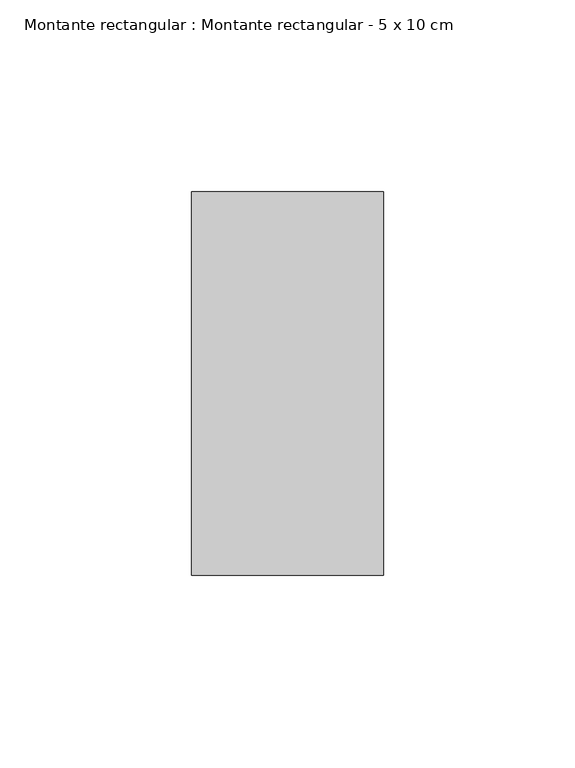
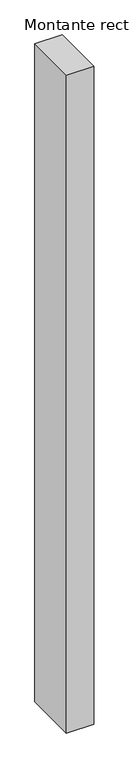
"""IFC4 building model written with IfcOpenShell, lengths in millimetres: member geometry, Montante rectangular : Montante rectangular - 5 x 10 cm."""

import ifcopenshell
import ifcopenshell.guid

model = None  # the IFC model being written
_history = None  # IfcOwnerHistory: only IFC2X3 demands one
_inside = {}  # id of a spatial element -> (the spatial element, [elements in it])
_under = {}  # id of a project, library or spatial element -> (it, [spatial elements below it])
_declared = {}  # id of a project -> (the project, [libraries it declares])
_typed = {}  # id of a type object -> (the type object, [elements of that type])
_made_of = {}  # id of a material, layer set ... -> (it, [elements and type objects made of it])


def new_model(schema):
    """Start an empty IFC model of exactly this schema.

    Asked for "IFC4X3", IfcOpenShell would pick the latest addendum, in which some entities
    have other attributes; the version numbers below select the first issue.
    IFC2X3 requires an IfcOwnerHistory on every rooted entity: one is made here for all.
    """
    global model, _history
    if schema == "IFC4X3":
        model = ifcopenshell.file(schema_version=(4, 3, 0, 0))
    else:
        model = ifcopenshell.file(schema=schema)
    _inside.clear()
    _under.clear()
    _declared.clear()
    _typed.clear()
    _made_of.clear()
    _history = None
    if model.schema == "IFC2X3":
        org = make("IfcOrganization", Name="unknown")
        user = make(
            "IfcPersonAndOrganization",
            ThePerson=make("IfcPerson", FamilyName="unknown"),
            TheOrganization=org,
        )
        app = make(
            "IfcApplication",
            ApplicationDeveloper=org,
            Version="unknown",
            ApplicationFullName="unknown",
            ApplicationIdentifier="unknown",
        )
        _history = make(
            "IfcOwnerHistory",
            OwningUser=user,
            OwningApplication=app,
            ChangeAction="ADDED",
            CreationDate=0,
        )
    return model


def make(cls, **values):
    """One entity of the class cls with the attributes given. An attribute that is None is left unset."""
    return model.create_entity(
        cls, **{name: value for name, value in values.items() if value is not None}
    )


def rooted(cls, **values):
    """An entity with a GlobalId (a new one), such as an element, a storey or a relation."""
    return make(cls, GlobalId=ifcopenshell.guid.new(), OwnerHistory=_history, **values)


def si_unit(unit_type, name, prefix=None):
    """IfcSIUnit, for example si_unit("LENGTHUNIT", "METRE", prefix="MILLI")."""
    return make("IfcSIUnit", UnitType=unit_type, Prefix=prefix, Name=name)


def assignment(units):
    """IfcUnitAssignment: the units of a project."""
    return None if units is None else make("IfcUnitAssignment", Units=units)


def point(xyz):
    """IfcCartesianPoint."""
    return None if xyz is None else make("IfcCartesianPoint", Coordinates=xyz)


def direction(xyz):
    """IfcDirection."""
    return None if xyz is None else make("IfcDirection", DirectionRatios=xyz)


def frame(location, z_axis=None, x_axis=None):
    """IfcAxis2Placement3D, a coordinate frame: its origin and axes. An axis left out is left unset."""
    return make(
        "IfcAxis2Placement3D",
        Location=point(location),
        Axis=direction(z_axis),
        RefDirection=direction(x_axis),
    )


def origin():
    """The frame at (0, 0, 0) with its axes left unset."""
    return frame((0.0, 0.0, 0.0))


def place(relative_to, where):
    """IfcLocalPlacement: puts the frame where relative to a parent placement (None: the world)."""
    return make(
        "IfcLocalPlacement", PlacementRelTo=relative_to, RelativePlacement=where
    )


def context(
    kind, dimensions, precision=None, world=None, true_north=None, identifier=None
):
    """IfcGeometricRepresentationContext, for example the 3D "Model" context."""
    return make(
        "IfcGeometricRepresentationContext",
        ContextIdentifier=identifier,
        ContextType=kind,
        CoordinateSpaceDimension=dimensions,
        Precision=precision,
        WorldCoordinateSystem=world,
        TrueNorth=true_north,
    )


def project(units=None, contexts=None):
    """IfcProject with its units and contexts."""
    return rooted(
        "IfcProject",
        Name="project",
        RepresentationContexts=contexts,
        UnitsInContext=assignment(units),
    )


def spatial(cls, under=None, at=None, **own):
    """A site, building, storey or space (cls), placed at a placement, below another one or the project."""
    s = rooted(cls, ObjectPlacement=at, **own)
    if under is not None:
        _under.setdefault(under.id(), (under, []))[1].append(s)
    return s


def polyline(points):
    """IfcPolyline through the points."""
    return make("IfcPolyline", Points=[point(p) for p in points])


def outline(outer, holes=None, kind="AREA"):
    """IfcArbitraryClosedProfileDef: a profile drawn as a closed curve; with holes, ...WithVoids."""
    if holes is None:
        return make("IfcArbitraryClosedProfileDef", ProfileType=kind, OuterCurve=outer)
    return make(
        "IfcArbitraryProfileDefWithVoids",
        ProfileType=kind,
        OuterCurve=outer,
        InnerCurves=holes,
    )


def extrude(swept, where, along, depth):
    """IfcExtrudedAreaSolid: the profile swept, set in the frame where, extruded along a direction by depth."""
    return make(
        "IfcExtrudedAreaSolid",
        SweptArea=swept,
        Position=where,
        ExtrudedDirection=direction(along),
        Depth=depth,
    )


def shape(context_of_items, identifier, shape_type, items):
    """IfcShapeRepresentation: the items that make up one representation, for example the "Body"."""
    return make(
        "IfcShapeRepresentation",
        ContextOfItems=context_of_items,
        RepresentationIdentifier=identifier,
        RepresentationType=shape_type,
        Items=items,
    )


def source(mapping_origin, context_of_items, identifier, shape_type, items):
    """IfcRepresentationMap: a shape defined once, which mapped items show again and again."""
    return make(
        "IfcRepresentationMap",
        MappingOrigin=mapping_origin,
        MappedRepresentation=shape(context_of_items, identifier, shape_type, items),
    )


def transform(
    local_origin,
    x_axis=None,
    y_axis=None,
    z_axis=None,
    scale=None,
    scale2=None,
    scale3=None,
    uniform=True,
):
    """IfcCartesianTransformationOperator3D, or its non-uniform kind. x_axis, y_axis, z_axis: its Axis1, 2, 3."""
    if uniform:
        return make(
            "IfcCartesianTransformationOperator3D",
            Axis1=direction(x_axis),
            Axis2=direction(y_axis),
            LocalOrigin=point(local_origin),
            Scale=scale,
            Axis3=direction(z_axis),
        )
    return make(
        "IfcCartesianTransformationOperator3DnonUniform",
        Axis1=direction(x_axis),
        Axis2=direction(y_axis),
        LocalOrigin=point(local_origin),
        Scale=scale,
        Axis3=direction(z_axis),
        Scale2=scale2,
        Scale3=scale3,
    )


def mapped(mapping_source, mapping_target):
    """IfcMappedItem: shows the shape of a source again, moved by a transform."""
    return make(
        "IfcMappedItem", MappingSource=mapping_source, MappingTarget=mapping_target
    )


def made_of(thing, what):
    """Note that an element or type object is made of a material, layer set ...; save() writes the relation."""
    if what is not None:
        _made_of.setdefault(what.id(), (what, []))[1].append(thing)
    return thing


def element(
    cls,
    number,
    at=None,
    inside=None,
    cuts=None,
    type_object=None,
    material=None,
    context=None,
    identifier="Body",
    shape_type=None,
    held_by="IfcProductDefinitionShape",
    body=None,
    shapes=None,
    **own,
):
    """One element of the class cls, such as IfcWall. Its Tag is "e" and its number.

    at: its placement. inside: the storey or other place that contains it. cuts: it is an
    opening in that element (IfcRelVoidsElement). A single representation is given by context,
    identifier, shape_type and body (its items); several are given by shapes. held_by: the class
    of the entity that holds the representations. save() writes the other relations.
    """
    e = rooted(cls, Tag="e%d" % number, ObjectPlacement=at, **own)
    if body is not None:
        shapes = [shape(context, identifier, shape_type, body)]
    if shapes is not None:
        e.Representation = make(held_by, Representations=shapes)
    if inside is not None:
        _inside.setdefault(inside.id(), (inside, []))[1].append(e)
    if cuts is not None:
        rooted(
            "IfcRelVoidsElement", RelatingBuildingElement=cuts, RelatedOpeningElement=e
        )
    if type_object is not None:
        _typed.setdefault(type_object.id(), (type_object, []))[1].append(e)
    return made_of(e, material)


def aggregate(whole, parts):
    """IfcRelAggregates: a whole, such as a stair, and the parts it consists of."""
    return rooted("IfcRelAggregates", RelatingObject=whole, RelatedObjects=parts)


def save(model, path):
    """Write the relations noted so far, then the file.

    IfcRelAggregates (storeys below a building ...), IfcRelContainedInSpatialStructure (elements
    in a storey), IfcRelDefinesByType, IfcRelAssociatesMaterial and IfcRelDeclares: one each for
    every whole, place, type object, material and project.
    """
    for whole, parts in _under.values():
        aggregate(whole, parts)
    for where, things in _inside.values():
        rooted(
            "IfcRelContainedInSpatialStructure",
            RelatedElements=things,
            RelatingStructure=where,
        )
    for kind, things in _typed.values():
        rooted("IfcRelDefinesByType", RelatedObjects=things, RelatingType=kind)
    for what, things in _made_of.values():
        rooted("IfcRelAssociatesMaterial", RelatedObjects=things, RelatingMaterial=what)
    for by, libraries in _declared.values():
        rooted("IfcRelDeclares", RelatingContext=by, RelatedDefinitions=libraries)
    model.write(path)


def montante_rectangular_montante_rectangular_5_x_10_cm_e40062c4(model_context):
    return source(origin(), model_context, "Body", "SweptSolid", [
        extrude(outline(polyline([(-50.0, 50.0), (0.0, 50.0), (0.0, -50.0), (-50.0, -50.0), (-50.0, 50.0)])), frame((0.0, 0.0, -1275.0610844), z_axis=(0.0, 0.0, 1.0), x_axis=(1.0, 0.0, 0.0)), (0.0, 0.0, 1.0), 1275.0610844),
    ])


if __name__ == "__main__":
    model = new_model("IFC4")
    model_context = context("Model", 3, world=origin())
    ifc_project = project(units=[si_unit("LENGTHUNIT", "METRE", prefix="MILLI")], contexts=[model_context])
    site = spatial("IfcSite", under=ifc_project)
    building = spatial("IfcBuilding", under=site)
    placement = place(None, origin())
    montante_rectangular_montante_rectangular_5_x_10_cm_shape = montante_rectangular_montante_rectangular_5_x_10_cm_e40062c4(model_context)
    element("IfcMember", 1, ObjectType="Montante rectangular : Montante rectangular - 5 x 10 cm", at=placement, inside=building, context=model_context, shape_type="MappedRepresentation", body=[
        mapped(montante_rectangular_montante_rectangular_5_x_10_cm_shape, transform((0.0, 0.0, 0.0), x_axis=(1.0, 0.0, 0.0), y_axis=(0.0, 1.0, 0.0), z_axis=(0.0, 0.0, 1.0))),
    ])
    save(model, "model.ifc")
